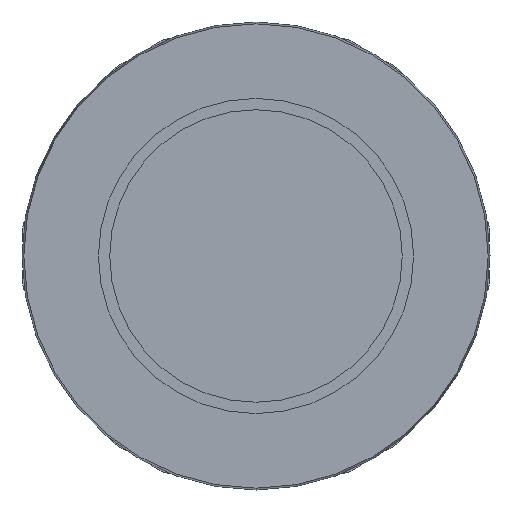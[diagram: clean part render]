
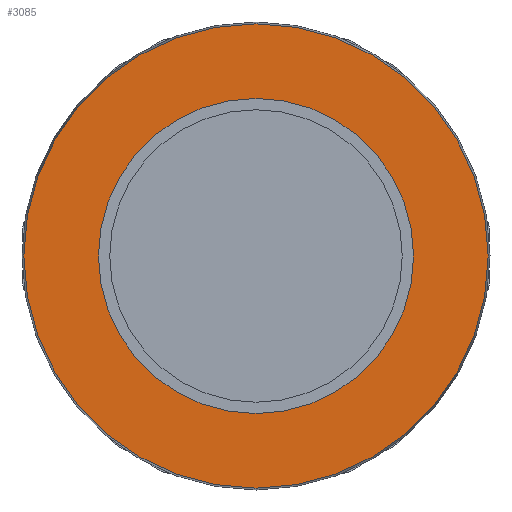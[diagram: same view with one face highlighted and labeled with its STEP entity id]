
A CAD part, front view. The second image highlights one B-rep face of the part: STEP entity #3085.
In plain terms, the highlighted planar face has unit normal (0, -1, 0).
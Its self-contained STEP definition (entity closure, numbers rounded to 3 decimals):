
#3051=CARTESIAN_POINT('',(-17.1,-33.43,0.0));
#3052=VERTEX_POINT('',#3051);
#3053=CARTESIAN_POINT('',(0.0,-33.43,0.0));
#3054=DIRECTION('',(0.0,1.0,0.0));
#3055=DIRECTION('',(-1.0,0.0,0.0));
#3056=AXIS2_PLACEMENT_3D('',#3053,#3054,#3055);
#3057=CIRCLE('',#3056,17.1);
#3058=EDGE_CURVE('',#3052,#3052,#3057,.T.);
#3066=CARTESIAN_POINT('',(-21.15,-33.43,0.0));
#3067=DIRECTION('',(0.0,-1.0,0.0));
#3068=DIRECTION('',(0.0,0.0,-1.0));
#3069=AXIS2_PLACEMENT_3D('',#3066,#3067,#3068);
#3070=PLANE('',#3069);
#3071=CARTESIAN_POINT('',(-25.2,-33.43,0.0));
#3072=VERTEX_POINT('',#3071);
#3073=CARTESIAN_POINT('',(0.0,-33.43,0.0));
#3074=DIRECTION('',(0.0,1.0,0.0));
#3075=DIRECTION('',(-1.0,0.0,0.0));
#3076=AXIS2_PLACEMENT_3D('',#3073,#3074,#3075);
#3077=CIRCLE('',#3076,25.2);
#3078=EDGE_CURVE('',#3072,#3072,#3077,.T.);
#3079=ORIENTED_EDGE('',*,*,#3078,.F.);
#3080=EDGE_LOOP('',(#3079));
#3081=FACE_OUTER_BOUND('',#3080,.T.);
#3082=ORIENTED_EDGE('',*,*,#3058,.T.);
#3083=EDGE_LOOP('',(#3082));
#3084=FACE_BOUND('',#3083,.T.);
#3085=ADVANCED_FACE('',(#3081,#3084),#3070,.T.);
